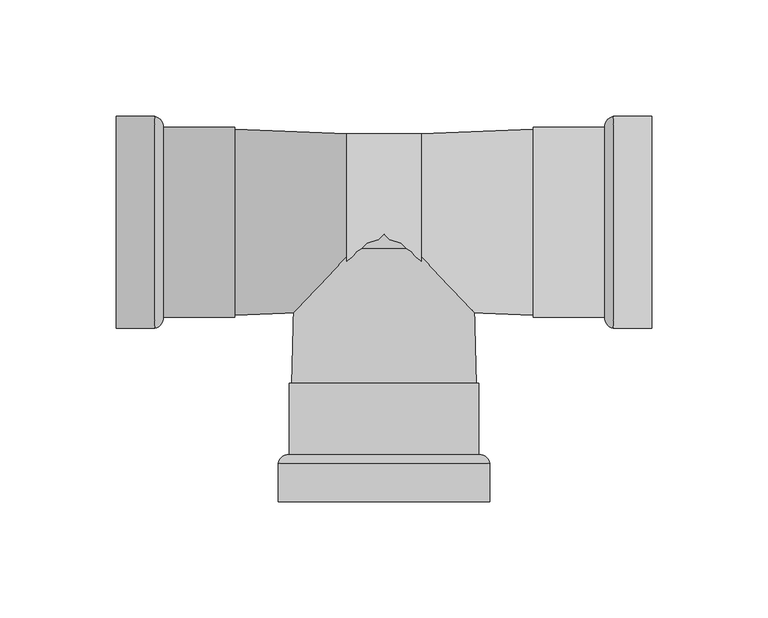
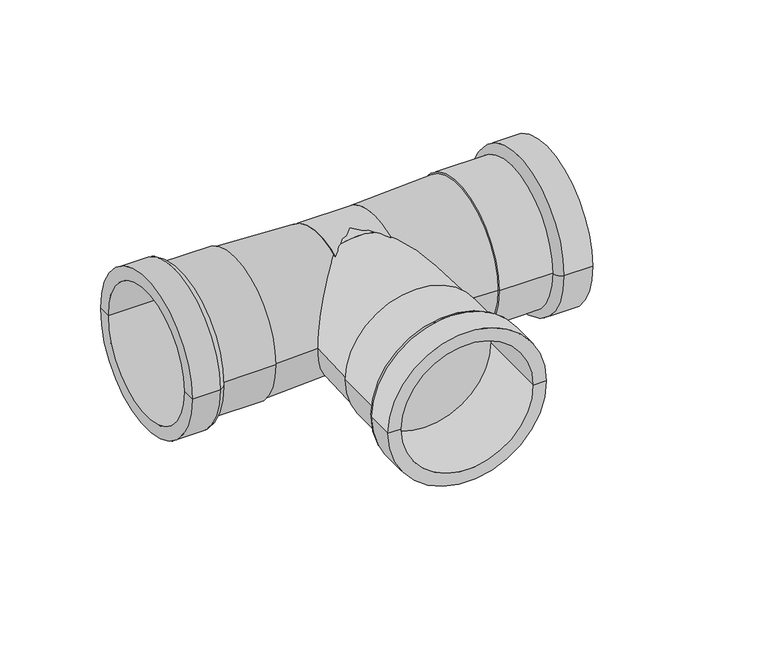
"""IFC4 building model written with IfcOpenShell, lengths in millimetres: pipe fitting geometry, VALTEC_VTi.931.I_Тройник_Ннержавеющая сталь : VTi.931.I."""

from ifc_helpers import new_model, si_unit, point, frame, origin, origin_2d, place, context, project, spatial, polyline, circle_curve, ellipse_curve, trimmed, segment, composite_curve, outline, extrude, source, transform, mapped, element, save
from ifc_brep_helpers import plane_surface, cylinder_surface, revolved_surface, advanced_brep


def pipe_fitting_3d1b63b0(model_context):
    return source(origin(), model_context, "Body", "SolidModel", [
        advanced_brep(
        [(-38.05, -120.0, 0.0), (-45.5, -120.0, 0.0), (45.5, -120.0, 0.0), (38.05, -120.0, 0.0), (-38.05, -69.19, 0.0), (38.05, -69.19, 0.0), (-40.75, -69.19, 0.0), (40.75, -69.19, 0.0), (-40.75, -99.75, 0.0), (40.75, -99.75, 0.0), (-45.5, -103.6, 0.0), (45.5, -103.6, 0.0)],
        [
            (0, 1),
            (1, 2, circle_curve(frame((0.0, -120.0, 0.0), z_axis=(0.0, -1.0, 0.0), x_axis=(1.0, 0.0, 0.0)), 45.5)),
            (2, 3),
            (3, 0, circle_curve(frame((0.0, -120.0, 0.0), z_axis=(0.0, 1.0, 0.0), x_axis=(1.0, 0.0, 0.0)), 38.05)),
            (2, 1, circle_curve(frame((0.0, -120.0, 0.0), z_axis=(0.0, -1.0, 0.0), x_axis=(1.0, 0.0, 0.0)), 45.5)),
            (0, 3, circle_curve(frame((0.0, -120.0, 0.0), z_axis=(0.0, 1.0, 0.0), x_axis=(1.0, 0.0, 0.0)), 38.05)),
            (4, 0),
            (3, 5),
            (5, 4, circle_curve(frame((0.0, -69.19, 0.0), z_axis=(0.0, 1.0, 0.0), x_axis=(1.0, 0.0, 0.0)), 38.05)),
            (4, 5, circle_curve(frame((0.0, -69.19, 0.0), z_axis=(0.0, 1.0, 0.0), x_axis=(1.0, 0.0, 0.0)), 38.05)),
            (6, 4),
            (5, 7),
            (7, 6, circle_curve(frame((0.0, -69.19, 0.0), z_axis=(0.0, 1.0, 0.0), x_axis=(1.0, 0.0, 0.0)), 40.75)),
            (6, 7, circle_curve(frame((0.0, -69.19, 0.0), z_axis=(0.0, 1.0, 0.0), x_axis=(1.0, 0.0, 0.0)), 40.75)),
            (8, 6),
            (7, 9),
            (9, 8, circle_curve(frame((0.0, -99.75, 0.0), z_axis=(0.0, 1.0, 0.0), x_axis=(1.0, 0.0, 0.0)), 40.75)),
            (8, 9, circle_curve(frame((0.0, -99.75, 0.0), z_axis=(0.0, 1.0, 0.0), x_axis=(1.0, 0.0, 0.0)), 40.75)),
            (10, 8, circle_curve(frame((-40.862345, -104.4665873, 0.0), z_axis=(0.0, 0.0, -1.0), x_axis=(0.0, 1.0, 0.0)), 4.7179251)),
            (9, 11, circle_curve(frame((40.862345, -104.4665873, 0.0), z_axis=(0.0, 0.0, -1.0), x_axis=(0.0, 1.0, 0.0)), 4.7179251)),
            (11, 10, circle_curve(frame((0.0, -103.6, 0.0), z_axis=(0.0, 1.0, 0.0), x_axis=(1.0, 0.0, 0.0)), 45.5)),
            (10, 11, circle_curve(frame((0.0, -103.6, 0.0), z_axis=(0.0, 1.0, 0.0), x_axis=(1.0, 0.0, 0.0)), 45.5)),
            (1, 10),
            (11, 2),
        ],
        [
            plane_surface(frame((0.0, -120.0, 0.0), z_axis=(0.0, -1.0, 0.0), x_axis=(1.0, 0.0, 0.0))),
            revolved_surface(polyline([(38.05, -120.0, 0.0), (38.05, -69.19, 0.0)]), (0.0, -90.1506392, 0.0), (0.0, -1.0, 0.0)),
            plane_surface(frame((0.0, -69.19, 0.0), z_axis=(0.0, 1.0, 0.0), x_axis=(1.0, 0.0, 0.0))),
            cylinder_surface(frame((0.0, -90.1506392, 0.0), z_axis=(0.0, -1.0, 0.0), x_axis=(1.0, 0.0, 0.0)), 40.75),
            revolved_surface(trimmed(ellipse_curve(frame((40.862345, -104.4665873, 0.0), z_axis=(0.0, 0.0, -1.0), x_axis=(0.0, 1.0, 0.0)), 4.7179251, 4.7179251), [point((40.75, -99.75, 0.0))], [point((45.5, -103.6, 0.0))], True, "CARTESIAN"), (0.0, -90.1506392, 0.0), (0.0, -1.0, 0.0)),
            cylinder_surface(frame((0.0, -90.1506392, 0.0), z_axis=(0.0, -1.0, 0.0), x_axis=(1.0, 0.0, 0.0)), 45.5),
        ],
        [
            (0, [[1, 2, 3, 4]]),
            (0, [[-3, 5, -1, 6]]),
            (1, [[7, -4, 8, 9]]),
            (1, [[-8, -6, -7, 10]]),
            (2, [[11, -9, 12, 13]]),
            (2, [[-12, -10, -11, 14]]),
            (3, [[15, -13, 16, 17]]),
            (3, [[-16, -14, -15, 18]]),
            (4, [[19, -17, 20, 21]]),
            (4, [[-20, -18, -19, 22]]),
            (5, [[23, -21, 24, -2]]),
            (5, [[-24, -22, -23, -5]]),
        ],
    ),
        advanced_brep(
        [(115.0, -38.05, 0.0), (115.0, -45.5, 0.0), (115.0, 45.5, 0.0), (115.0, 38.05, 0.0), (64.19, -38.05, 0.0), (64.19, 38.05, 0.0), (64.19, -40.75, 0.0), (64.19, 40.75, 0.0), (94.75, -40.75, 0.0), (94.75, 40.75, 0.0), (98.6, -45.5, 0.0), (98.6, 45.5, 0.0)],
        [
            (0, 1),
            (1, 2, circle_curve(frame((115.0, 0.0, 0.0), z_axis=(1.0, 0.0, 0.0), x_axis=(0.0, 1.0, 0.0)), 45.5)),
            (2, 3),
            (3, 0, circle_curve(frame((115.0, 0.0, 0.0), z_axis=(-1.0, 0.0, 0.0), x_axis=(0.0, 1.0, 0.0)), 38.05)),
            (2, 1, circle_curve(frame((115.0, 0.0, 0.0), z_axis=(1.0, 0.0, 0.0), x_axis=(0.0, 1.0, 0.0)), 45.5)),
            (0, 3, circle_curve(frame((115.0, 0.0, 0.0), z_axis=(-1.0, 0.0, 0.0), x_axis=(0.0, 1.0, 0.0)), 38.05)),
            (4, 0),
            (3, 5),
            (5, 4, circle_curve(frame((64.19, 0.0, 0.0), z_axis=(-1.0, 0.0, 0.0), x_axis=(0.0, 1.0, 0.0)), 38.05)),
            (4, 5, circle_curve(frame((64.19, 0.0, 0.0), z_axis=(-1.0, 0.0, 0.0), x_axis=(0.0, 1.0, 0.0)), 38.05)),
            (6, 4),
            (5, 7),
            (7, 6, circle_curve(frame((64.19, 0.0, 0.0), z_axis=(-1.0, 0.0, 0.0), x_axis=(0.0, 1.0, 0.0)), 40.75)),
            (6, 7, circle_curve(frame((64.19, 0.0, 0.0), z_axis=(-1.0, 0.0, 0.0), x_axis=(0.0, 1.0, 0.0)), 40.75)),
            (8, 6),
            (7, 9),
            (9, 8, circle_curve(frame((94.75, 0.0, 0.0), z_axis=(-1.0, 0.0, 0.0), x_axis=(0.0, 1.0, 0.0)), 40.75)),
            (8, 9, circle_curve(frame((94.75, 0.0, 0.0), z_axis=(-1.0, 0.0, 0.0), x_axis=(0.0, 1.0, 0.0)), 40.75)),
            (10, 8, circle_curve(frame((99.4665873, -40.862345, 0.0), z_axis=(0.0, 0.0, -1.0), x_axis=(-1.0, 0.0, 0.0)), 4.7179251)),
            (9, 11, circle_curve(frame((99.4665873, 40.862345, 0.0), z_axis=(0.0, 0.0, -1.0), x_axis=(-1.0, 0.0, 0.0)), 4.7179251)),
            (11, 10, circle_curve(frame((98.6, 0.0, 0.0), z_axis=(-1.0, 0.0, 0.0), x_axis=(0.0, 1.0, 0.0)), 45.5)),
            (10, 11, circle_curve(frame((98.6, 0.0, 0.0), z_axis=(-1.0, 0.0, 0.0), x_axis=(0.0, 1.0, 0.0)), 45.5)),
            (1, 10),
            (11, 2),
        ],
        [
            plane_surface(frame((115.0, 0.0, 0.0), z_axis=(1.0, 0.0, 0.0), x_axis=(0.0, 1.0, 0.0))),
            revolved_surface(polyline([(115.0, 38.05, 0.0), (64.19, 38.05, 0.0)]), (85.1506392, 0.0, 0.0), (1.0, 0.0, 0.0)),
            plane_surface(frame((64.19, 0.0, 0.0), z_axis=(-1.0, 0.0, 0.0), x_axis=(0.0, 1.0, 0.0))),
            cylinder_surface(frame((85.1506392, 0.0, 0.0), z_axis=(1.0, 0.0, 0.0), x_axis=(0.0, 1.0, 0.0)), 40.75),
            revolved_surface(trimmed(ellipse_curve(frame((99.4665873, 40.862345, 0.0), z_axis=(0.0, 0.0, -1.0), x_axis=(-1.0, 0.0, 0.0)), 4.7179251, 4.7179251), [point((94.75, 40.75, 0.0))], [point((98.6, 45.5, 0.0))], True, "CARTESIAN"), (85.1506392, 0.0, 0.0), (1.0, 0.0, 0.0)),
            cylinder_surface(frame((85.1506392, 0.0, 0.0), z_axis=(1.0, 0.0, 0.0), x_axis=(0.0, 1.0, 0.0)), 45.5),
        ],
        [
            (0, [[1, 2, 3, 4]]),
            (0, [[-3, 5, -1, 6]]),
            (1, [[7, -4, 8, 9]]),
            (1, [[-8, -6, -7, 10]]),
            (2, [[11, -9, 12, 13]]),
            (2, [[-12, -10, -11, 14]]),
            (3, [[15, -13, 16, 17]]),
            (3, [[-16, -14, -15, 18]]),
            (4, [[19, -17, 20, 21]]),
            (4, [[-20, -18, -19, 22]]),
            (5, [[23, -21, 24, -2]]),
            (5, [[-24, -22, -23, -5]]),
        ],
    ),
        advanced_brep(
        [(-115.0, -38.05, 0.0), (-115.0, 38.05, 0.0), (-115.0, 45.5, 0.0), (-115.0, -45.5, 0.0), (-64.19, -38.05, 0.0), (-64.19, 38.05, 0.0), (-64.19, -40.75, 0.0), (-64.19, 40.75, 0.0), (-94.75, -40.75, 0.0), (-94.75, 40.75, 0.0), (-98.6, -45.5, 0.0), (-98.6, 45.5, 0.0)],
        [
            (0, 1, circle_curve(frame((-115.0, 0.0, 0.0), z_axis=(1.0, 0.0, 0.0), x_axis=(0.0, 1.0, 0.0)), 38.05)),
            (1, 2),
            (2, 3, circle_curve(frame((-115.0, 0.0, 0.0), z_axis=(-1.0, 0.0, 0.0), x_axis=(0.0, 1.0, 0.0)), 45.5)),
            (3, 0),
            (1, 0, circle_curve(frame((-115.0, 0.0, 0.0), z_axis=(1.0, 0.0, 0.0), x_axis=(0.0, 1.0, 0.0)), 38.05)),
            (3, 2, circle_curve(frame((-115.0, 0.0, 0.0), z_axis=(-1.0, 0.0, 0.0), x_axis=(0.0, 1.0, 0.0)), 45.5)),
            (4, 5, circle_curve(frame((-64.19, 0.0, 0.0), z_axis=(1.0, 0.0, 0.0), x_axis=(0.0, 1.0, 0.0)), 38.05)),
            (5, 1),
            (0, 4),
            (5, 4, circle_curve(frame((-64.19, 0.0, 0.0), z_axis=(1.0, 0.0, 0.0), x_axis=(0.0, 1.0, 0.0)), 38.05)),
            (6, 7, circle_curve(frame((-64.19, 0.0, 0.0), z_axis=(1.0, 0.0, 0.0), x_axis=(0.0, 1.0, 0.0)), 40.75)),
            (7, 5),
            (4, 6),
            (7, 6, circle_curve(frame((-64.19, 0.0, 0.0), z_axis=(1.0, 0.0, 0.0), x_axis=(0.0, 1.0, 0.0)), 40.75)),
            (8, 9, circle_curve(frame((-94.75, 0.0, 0.0), z_axis=(1.0, 0.0, 0.0), x_axis=(0.0, 1.0, 0.0)), 40.75)),
            (9, 7),
            (6, 8),
            (9, 8, circle_curve(frame((-94.75, 0.0, 0.0), z_axis=(1.0, 0.0, 0.0), x_axis=(0.0, 1.0, 0.0)), 40.75)),
            (10, 11, circle_curve(frame((-98.6, 0.0, 0.0), z_axis=(1.0, 0.0, 0.0), x_axis=(0.0, 1.0, 0.0)), 45.5)),
            (11, 9, circle_curve(frame((-99.4665873, 40.862345, 0.0), z_axis=(0.0, 0.0, -1.0), x_axis=(1.0, 0.0, 0.0)), 4.7179251)),
            (8, 10, circle_curve(frame((-99.4665873, -40.862345, 0.0), z_axis=(0.0, 0.0, -1.0), x_axis=(1.0, 0.0, 0.0)), 4.7179251)),
            (11, 10, circle_curve(frame((-98.6, 0.0, 0.0), z_axis=(1.0, 0.0, 0.0), x_axis=(0.0, 1.0, 0.0)), 45.5)),
            (2, 11),
            (10, 3),
        ],
        [
            plane_surface(frame((-115.0, 0.0, 0.0), z_axis=(-1.0, 0.0, 0.0), x_axis=(0.0, 1.0, 0.0))),
            revolved_surface(polyline([(-115.0, 38.05, 0.0), (-64.19, 38.05, 0.0)]), (-85.1506392, 0.0, 0.0), (-1.0, 0.0, 0.0)),
            plane_surface(frame((-64.19, 0.0, 0.0), z_axis=(1.0, 0.0, 0.0), x_axis=(0.0, 1.0, 0.0))),
            cylinder_surface(frame((-85.1506392, 0.0, 0.0), z_axis=(-1.0, 0.0, 0.0), x_axis=(0.0, 1.0, 0.0)), 40.75),
            revolved_surface(trimmed(ellipse_curve(frame((-99.4665873, 40.862345, 0.0), z_axis=(0.0, 0.0, 1.0), x_axis=(1.0, 0.0, 0.0)), 4.7179251, 4.7179251), [point((-94.75, 40.75, 0.0))], [point((-98.6, 45.5, 0.0))], True, "CARTESIAN"), (-85.1506392, 0.0, 0.0), (-1.0, 0.0, 0.0)),
            cylinder_surface(frame((-85.1506392, 0.0, 0.0), z_axis=(-1.0, 0.0, 0.0), x_axis=(0.0, 1.0, 0.0)), 45.5),
        ],
        [
            (0, [[1, 2, 3, 4]]),
            (0, [[5, -4, 6, -2]]),
            (1, [[7, 8, -1, 9]]),
            (1, [[10, -9, -5, -8]]),
            (2, [[11, 12, -7, 13]]),
            (2, [[14, -13, -10, -12]]),
            (3, [[15, 16, -11, 17]]),
            (3, [[18, -17, -14, -16]]),
            (4, [[19, 20, -15, 21]]),
            (4, [[22, -21, -18, -20]]),
            (5, [[-3, 23, -19, 24]]),
            (5, [[-6, -24, -22, -23]]),
        ],
    ),
        extrude(outline(composite_curve([segment(trimmed(circle_curve(origin_2d(), 38.05), [point((-38.05, 0.0))], [point((38.05, 0.0))], False, "CARTESIAN"), True, "CONTINUOUS"), segment(trimmed(circle_curve(origin_2d(), 38.05), [point((38.05, 0.0))], [point((-38.05, 0.0))], False, "CARTESIAN"), True, "CONTINUOUS")], self_intersect=False)), frame((-16.0, 0.0, 0.0), z_axis=(1.0, 0.0, 0.0), x_axis=(0.0, 1.0, 0.0)), (0.0, 0.0, 1.0), 32.0),
        advanced_brep(
        [(-39.9525, -78.0, 0.0), (39.9525, -78.0, 0.0), (-38.05, -11.3209826, 0.0), (38.05, -11.3209826, 0.0)],
        [
            (0, 1, circle_curve(frame((0.0, -78.0, 0.0), z_axis=(0.0, -1.0, 0.0), x_axis=(-1.0, 0.0, 0.0)), 39.9525)),
            (1, 0, circle_curve(frame((0.0, -78.0, 0.0), z_axis=(0.0, -1.0, 0.0), x_axis=(1.0, 0.0, 0.0)), 39.9525)),
            (2, 3, circle_curve(frame((0.0, -11.3209826, 0.0), z_axis=(0.0, 1.0, 0.0), x_axis=(1.0, 0.0, 0.0)), 38.05)),
            (3, 2, circle_curve(frame((0.0, -11.3209826, 0.0), z_axis=(0.0, 1.0, 0.0), x_axis=(-1.0, 0.0, 0.0)), 38.05)),
            (3, 1),
            (0, 2),
        ],
        [
            plane_surface(frame((0.0, -78.0, 0.0), z_axis=(0.0, -1.0, 0.0), x_axis=(0.0, 0.0, 1.0))),
            plane_surface(frame((0.0, -11.3209826, 0.0), z_axis=(0.0, 1.0, 0.0), x_axis=(0.0, 0.0, 1.0))),
            revolved_surface(polyline([(38.05000000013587, -11.32098259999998, 0.0), (39.9525, -78.0, 0.0)]), (0.0, 1322.2593655, 0.0), (0.0, -1.0, 0.0)),
            revolved_surface(polyline([(-38.05000000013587, -11.32098259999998, 0.0), (-39.9525, -78.0, 0.0)]), (0.0, 1322.2593655, 0.0), (0.0, -1.0, 0.0)),
        ],
        [
            (0, [[1, 2]]),
            (1, [[3, 4]]),
            (2, [[-4, 5, -1, 6]]),
            (3, [[-3, -6, -2, -5]]),
        ],
    ),
        extrude(outline(composite_curve([segment(trimmed(circle_curve(origin_2d(), 38.05), [point((0.0, -38.05))], [point((0.0, 38.05))], False, "CARTESIAN"), True, "CONTINUOUS"), segment(trimmed(circle_curve(origin_2d(), 38.05), [point((0.0, 38.05))], [point((0.0, -38.05))], False, "CARTESIAN"), True, "CONTINUOUS")], self_intersect=False)), frame((0.0, -11.3209826, 0.0), z_axis=(0.0, 1.0, 0.0), x_axis=(0.0, 0.0, 1.0)), (0.0, 0.0, 1.0), 11.3209826),
        advanced_brep(
        [(64.2, -39.9525, 0.0), (64.2, 39.9525, 0.0), (16.0, -38.05, 0.0), (16.0, 38.05, 0.0)],
        [
            (0, 1, circle_curve(frame((64.2, 0.0, 0.0), z_axis=(1.0, 0.0, 0.0), x_axis=(0.0, -1.0, 0.0)), 39.9525)),
            (1, 0, circle_curve(frame((64.2, 0.0, 0.0), z_axis=(1.0, 0.0, 0.0), x_axis=(0.0, 1.0, 0.0)), 39.9525)),
            (2, 3, circle_curve(frame((16.0, 0.0, 0.0), z_axis=(-1.0, 0.0, 0.0), x_axis=(0.0, 1.0, 0.0)), 38.05)),
            (3, 2, circle_curve(frame((16.0, 0.0, 0.0), z_axis=(-1.0, 0.0, 0.0), x_axis=(0.0, -1.0, 0.0)), 38.05)),
            (3, 1),
            (0, 2),
        ],
        [
            plane_surface(frame((64.2, 0.0, 0.0), z_axis=(1.0, 0.0, 0.0), x_axis=(0.0, 0.0, 1.0))),
            plane_surface(frame((16.0, 0.0, 0.0), z_axis=(-1.0, 0.0, 0.0), x_axis=(0.0, 0.0, 1.0))),
            revolved_surface(polyline([(16.0, 38.05, 0.0), (64.20000000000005, 39.9525, 0.0)]), (-948.0, 0.0, 0.0), (1.0, 0.0, 0.0)),
            revolved_surface(polyline([(16.0, -38.05, 0.0), (64.20000000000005, -39.9525, 0.0)]), (-948.0, 0.0, 0.0), (1.0, 0.0, 0.0)),
        ],
        [
            (0, [[1, 2]]),
            (1, [[3, 4]]),
            (2, [[-4, 5, -1, 6]]),
            (3, [[-3, -6, -2, -5]]),
        ],
    ),
        advanced_brep(
        [(-64.2, -39.9525, 0.0), (-64.2, 39.9525, 0.0), (-16.0, -38.05, 0.0), (-16.0, 38.05, 0.0)],
        [
            (0, 1, circle_curve(frame((-64.2, 0.0, 0.0), z_axis=(-1.0, 0.0, 0.0), x_axis=(0.0, -1.0, 0.0)), 39.9525)),
            (1, 0, circle_curve(frame((-64.2, 0.0, 0.0), z_axis=(-1.0, 0.0, 0.0), x_axis=(0.0, 1.0, 0.0)), 39.9525)),
            (2, 3, circle_curve(frame((-16.0, 0.0, 0.0), z_axis=(1.0, 0.0, 0.0), x_axis=(0.0, 1.0, 0.0)), 38.05)),
            (3, 2, circle_curve(frame((-16.0, 0.0, 0.0), z_axis=(1.0, 0.0, 0.0), x_axis=(0.0, -1.0, 0.0)), 38.05)),
            (2, 0),
            (1, 3),
        ],
        [
            plane_surface(frame((-64.2, 0.0, 0.0), z_axis=(-1.0, 0.0, 0.0), x_axis=(0.0, 0.0, -1.0))),
            plane_surface(frame((-16.0, 0.0, 0.0), z_axis=(1.0, 0.0, 0.0), x_axis=(0.0, 0.0, -1.0))),
            revolved_surface(polyline([(-16.0, -38.05, 0.0), (-64.20000000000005, -39.9525, 0.0)]), (948.0, 0.0, 0.0), (-1.0, 0.0, 0.0)),
            revolved_surface(polyline([(-16.0, 38.05, 0.0), (-64.20000000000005, 39.9525, 0.0)]), (948.0, 0.0, 0.0), (-1.0, 0.0, 0.0)),
        ],
        [
            (0, [[1, 2]]),
            (1, [[3, 4]]),
            (2, [[-3, 5, -2, 6]]),
            (3, [[-4, -6, -1, -5]]),
        ],
    ),
    ])


if __name__ == "__main__":
    model = new_model("IFC4")
    model_context = context("Model", 3, world=origin())
    ifc_project = project(units=[si_unit("LENGTHUNIT", "METRE", prefix="MILLI")], contexts=[model_context])
    site = spatial("IfcSite", under=ifc_project)
    building = spatial("IfcBuilding", under=site)
    placement = place(None, origin())
    pipe_fitting_shape = pipe_fitting_3d1b63b0(model_context)
    element("IfcPipeFitting", 1, ObjectType="VALTEC_VTi.931.I_Тройник_Ннержавеющая сталь : VTi.931.I", at=placement, inside=building, context=model_context, shape_type="MappedRepresentation", body=[
        mapped(pipe_fitting_shape, transform((0.0, 0.0, 0.0), x_axis=(1.0, 0.0, 0.0), y_axis=(0.0, 1.0, 0.0), z_axis=(0.0, 0.0, 1.0))),
    ])
    save(model, "model.ifc")
